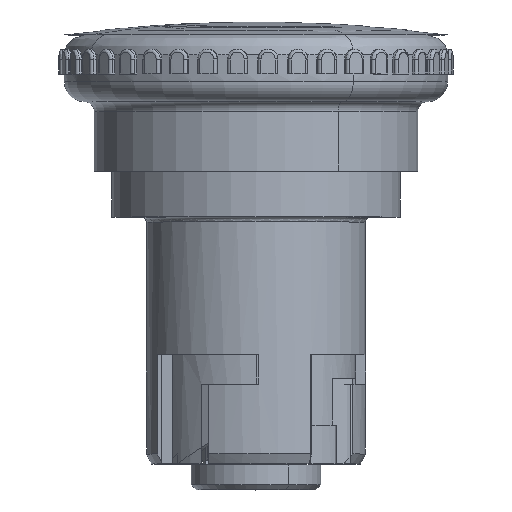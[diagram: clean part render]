
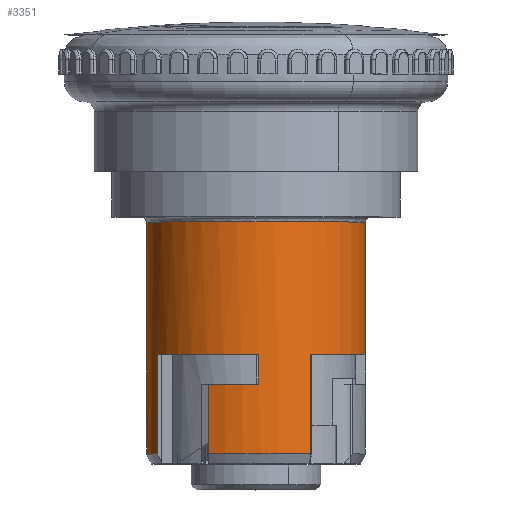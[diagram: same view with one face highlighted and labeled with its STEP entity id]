
A CAD part, top view. The second image highlights one B-rep face of the part: STEP entity #3351.
In plain terms, the highlighted cylindrical face has radius 11 mm (diameter 22 mm), a partial arc.
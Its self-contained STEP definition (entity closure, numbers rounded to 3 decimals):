
#76=CARTESIAN_POINT('',(-9.916,1.,4.763));
#93=CARTESIAN_POINT('',(0.,1.,0.));
#94=DIRECTION('',(0.,1.,0.));
#95=DIRECTION('',(-0.884,0.,-0.468));
#96=AXIS2_PLACEMENT_3D('',#93,#94,#95);
#98=DIRECTION('',(0.,-1.,0.));
#99=VECTOR('',#98,7.6);
#100=CARTESIAN_POINT('',(-9.723,8.6,-5.145));
#101=LINE('',#100,#99);
#102=DIRECTION('',(0.,-1.,0.));
#103=VECTOR('',#102,3.);
#104=CARTESIAN_POINT('',(-10.985,11.,0.58));
#105=LINE('',#104,#103);
#106=CARTESIAN_POINT('',(0.,11.,0.));
#107=DIRECTION('',(0.,-1.,0.));
#108=DIRECTION('',(-0.999,0.,0.053));
#109=AXIS2_PLACEMENT_3D('',#106,#107,#108);
#111=DIRECTION('',(0.,-1.,0.));
#112=VECTOR('',#111,13.3);
#113=CARTESIAN_POINT('',(-11.,24.3,0.));
#114=LINE('',#113,#112);
#115=CARTESIAN_POINT('',(0.,24.3,0.));
#116=DIRECTION('',(0.,1.,0.));
#117=DIRECTION('',(-1.,0.,0.));
#118=AXIS2_PLACEMENT_3D('',#115,#116,#117);
#120=DIRECTION('',(0.,-1.,0.));
#121=VECTOR('',#120,13.3);
#122=CARTESIAN_POINT('',(11.,24.3,0.));
#123=LINE('',#122,#121);
#124=CARTESIAN_POINT('',(0.,11.,0.));
#125=DIRECTION('',(0.,1.,0.));
#126=DIRECTION('',(0.508,0.,0.862));
#127=AXIS2_PLACEMENT_3D('',#124,#125,#126);
#129=DIRECTION('',(0.,1.,0.));
#130=VECTOR('',#129,10.);
#131=CARTESIAN_POINT('',(5.583,1.,9.478));
#132=LINE('',#131,#130);
#133=CARTESIAN_POINT('',(0.,1.,0.));
#134=DIRECTION('',(0.,1.,0.));
#135=DIRECTION('',(-0.433,0.,0.901));
#136=AXIS2_PLACEMENT_3D('',#133,#134,#135);
#138=DIRECTION('',(0.,-1.,0.));
#139=VECTOR('',#138,7.);
#140=CARTESIAN_POINT('',(-4.763,8.,9.916));
#141=LINE('',#140,#139);
#142=DIRECTION('',(0.,-1.,0.));
#143=VECTOR('',#142,3.);
#144=CARTESIAN_POINT('',(0.3,11.,10.996));
#145=LINE('',#144,#143);
#146=DIRECTION('',(0.,-1.,0.));
#147=VECTOR('',#146,10.);
#148=CARTESIAN_POINT('',(-9.916,11.,4.763));
#149=LINE('',#148,#147);
#154=CARTESIAN_POINT('',(-9.723,1.,-5.145));
#214=CARTESIAN_POINT('',(0.,8.,0.));
#215=DIRECTION('',(0.,-1.,0.));
#216=DIRECTION('',(-0.999,0.,0.053));
#217=AXIS2_PLACEMENT_3D('',#214,#215,#216);
#2026=CARTESIAN_POINT('',(0.,11.,0.));
#2027=DIRECTION('',(0.,1.,0.));
#2028=DIRECTION('',(-0.901,0.,0.433));
#2029=AXIS2_PLACEMENT_3D('',#2026,#2027,#2028);
#2066=CARTESIAN_POINT('',(0.,8.,0.));
#2067=DIRECTION('',(0.,-1.,0.));
#2068=DIRECTION('',(0.027,0.,1.));
#2069=AXIS2_PLACEMENT_3D('',#2066,#2067,#2068);
#2114=CARTESIAN_POINT('',(-4.763,1.,9.916));
#2719=DIRECTION('',(0.,1.,0.));
#2720=VECTOR('',#2719,0.6);
#2721=CARTESIAN_POINT('',(-9.969,8.,-4.649));
#2722=LINE('',#2721,#2720);
#2732=CARTESIAN_POINT('',(0.,8.6,0.));
#2733=DIRECTION('',(0.,1.,0.));
#2734=DIRECTION('',(-0.884,0.,-0.468));
#2735=AXIS2_PLACEMENT_3D('',#2732,#2733,#2734);
#2875=CARTESIAN_POINT('',(-11.,24.3,0.));
#2876=CARTESIAN_POINT('',(11.,24.3,0.));
#2877=VERTEX_POINT('',#2875);
#2878=VERTEX_POINT('',#2876);
#2879=CARTESIAN_POINT('',(-9.969,8.,-4.649));
#2880=CARTESIAN_POINT('',(-9.969,8.6,-4.649));
#2881=VERTEX_POINT('',#2879);
#2882=VERTEX_POINT('',#2880);
#3046=CARTESIAN_POINT('',(-9.723,8.6,-5.145));
#3047=VERTEX_POINT('',#3046);
#3052=CARTESIAN_POINT('',(-11.,11.,0.));
#3053=VERTEX_POINT('',#3052);
#3054=CARTESIAN_POINT('',(0.3,11.,10.996));
#3055=CARTESIAN_POINT('',(0.3,8.,10.996));
#3056=VERTEX_POINT('',#3054);
#3057=VERTEX_POINT('',#3055);
#3058=CARTESIAN_POINT('',(-4.763,8.,9.916));
#3059=VERTEX_POINT('',#3058);
#3060=CARTESIAN_POINT('',(-9.916,11.,4.763));
#3061=VERTEX_POINT('',#3060);
#3073=CARTESIAN_POINT('',(11.,11.,0.));
#3074=VERTEX_POINT('',#3073);
#3083=CARTESIAN_POINT('',(5.583,11.,9.478));
#3084=VERTEX_POINT('',#3083);
#3159=VERTEX_POINT('',#76);
#3163=VERTEX_POINT('',#154);
#3164=CARTESIAN_POINT('',(5.583,1.,9.478));
#3166=VERTEX_POINT('',#3164);
#3170=VERTEX_POINT('',#2114);
#3183=CARTESIAN_POINT('',(-10.985,11.,0.58));
#3184=VERTEX_POINT('',#3183);
#3185=CARTESIAN_POINT('',(-10.985,8.,0.58));
#3186=VERTEX_POINT('',#3185);
#3310=CARTESIAN_POINT('',(0.,30.66,0.));
#3311=DIRECTION('',(0.,-1.,0.));
#3312=DIRECTION('',(-1.,0.,0.));
#3313=AXIS2_PLACEMENT_3D('',#3310,#3311,#3312);
#3314=CYLINDRICAL_SURFACE('',#3313,11.);
#3315=ORIENTED_EDGE('',*,*,#3285,.F.);
#3317=ORIENTED_EDGE('',*,*,#3316,.F.);
#3319=ORIENTED_EDGE('',*,*,#3318,.T.);
#3321=ORIENTED_EDGE('',*,*,#3320,.F.);
#3323=ORIENTED_EDGE('',*,*,#3322,.F.);
#3325=ORIENTED_EDGE('',*,*,#3324,.F.);
#3327=ORIENTED_EDGE('',*,*,#3326,.T.);
#3329=ORIENTED_EDGE('',*,*,#3328,.F.);
#3331=ORIENTED_EDGE('',*,*,#3330,.T.);
#3333=ORIENTED_EDGE('',*,*,#3332,.T.);
#3335=ORIENTED_EDGE('',*,*,#3334,.F.);
#3337=ORIENTED_EDGE('',*,*,#3336,.F.);
#3339=ORIENTED_EDGE('',*,*,#3338,.F.);
#3341=ORIENTED_EDGE('',*,*,#3340,.F.);
#3343=ORIENTED_EDGE('',*,*,#3342,.F.);
#3345=ORIENTED_EDGE('',*,*,#3344,.F.);
#3347=ORIENTED_EDGE('',*,*,#3346,.F.);
#3348=ORIENTED_EDGE('',*,*,#3296,.T.);
#3349=EDGE_LOOP('',(#3315,#3317,#3319,#3321,#3323,#3325,#3327,#3329,#3331,#3333,
#3335,#3337,#3339,#3341,#3343,#3345,#3347,#3348));
#3350=FACE_OUTER_BOUND('',#3349,.F.);
#97=CIRCLE('',#96,11.);
#110=CIRCLE('',#109,11.);
#119=CIRCLE('',#118,11.);
#128=CIRCLE('',#127,11.);
#137=CIRCLE('',#136,11.);
#218=CIRCLE('',#217,11.);
#2030=CIRCLE('',#2029,11.);
#2070=CIRCLE('',#2069,11.);
#2736=CIRCLE('',#2735,11.);
#3285=EDGE_CURVE('',#3163,#3159,#97,.T.);
#3296=EDGE_CURVE('',#3061,#3159,#149,.T.);
#3316=EDGE_CURVE('',#3047,#3163,#101,.T.);
#3318=EDGE_CURVE('',#3047,#2882,#2736,.T.);
#3320=EDGE_CURVE('',#2881,#2882,#2722,.T.);
#3322=EDGE_CURVE('',#3186,#2881,#218,.T.);
#3324=EDGE_CURVE('',#3184,#3186,#105,.T.);
#3326=EDGE_CURVE('',#3184,#3053,#110,.T.);
#3328=EDGE_CURVE('',#2877,#3053,#114,.T.);
#3330=EDGE_CURVE('',#2877,#2878,#119,.T.);
#3332=EDGE_CURVE('',#2878,#3074,#123,.T.);
#3334=EDGE_CURVE('',#3084,#3074,#128,.T.);
#3336=EDGE_CURVE('',#3166,#3084,#132,.T.);
#3338=EDGE_CURVE('',#3170,#3166,#137,.T.);
#3340=EDGE_CURVE('',#3059,#3170,#141,.T.);
#3342=EDGE_CURVE('',#3057,#3059,#2070,.T.);
#3344=EDGE_CURVE('',#3056,#3057,#145,.T.);
#3346=EDGE_CURVE('',#3061,#3056,#2030,.T.);
#3351=ADVANCED_FACE('',(#3350),#3314,.T.);
